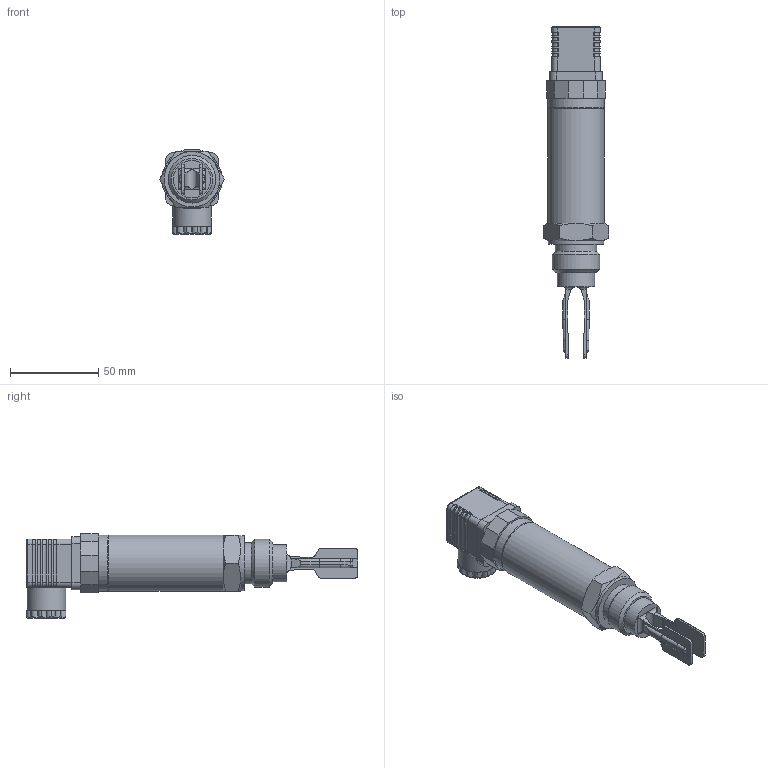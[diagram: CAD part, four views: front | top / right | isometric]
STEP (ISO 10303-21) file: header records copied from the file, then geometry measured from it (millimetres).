
FILE_DESCRIPTION(('STEP AP242'), '1');
FILE_NAME('ﾑﾂ-11 ﾍﾃ-06 ﾌ1 64', '', ('UNSPECIFIED'), ('UNSPECIFIED'), 'C3D Converter', 'C3D Toolkit', '');
FILE_SCHEMA(('AP242_MANAGED_MODEL_BASED_3D_ENGINEERING_MIM_LF { 1 0 10303 442 1 1 4 }'));
Length unit declared in the file: millimetre
Products named in the file (1): НКГЖ.407713.001-100
Bounding box: 36.95 x 188.5 x 48 mm (x, y, z)
Volume: 61340.8 mm3; surface area: 38768.5 mm2
Topology: 1 solids, 13 shells, 918 faces, 2445 edges, 1574 vertices
Faces by surface type: plane 569, cylinder 236, torus 36, bspline 34, cone 23, revolution 20
Full cylindrical faces by diameter (mm): 2 x1, 2.4 x1, 2.5 x1, 3 x2, 4 x1, 5 x1, 6 x1, 6.5 x1, 8 x1, 11 x2, 11.54 x1, 16 x1, 17.3 x1, 18.5 x1, 20 x1, 21 x1, 21.3 x1, 21.5 x1, 22 x3, 23.5 x1, 24.5 x1, 25.5 x1, 27 x3, 28 x1, 28.917 x1, 30 x1, 31.5 x1, 32 x2
Entity records: 45605 total; most frequent: CARTESIAN_POINT 15537, ORIENTED_EDGE 4764, DIRECTION 4660, EDGE_CURVE 2382, AXIS2_PLACEMENT_3D 1626, VERTEX_POINT 1572, LINE 1388, VECTOR 1388
